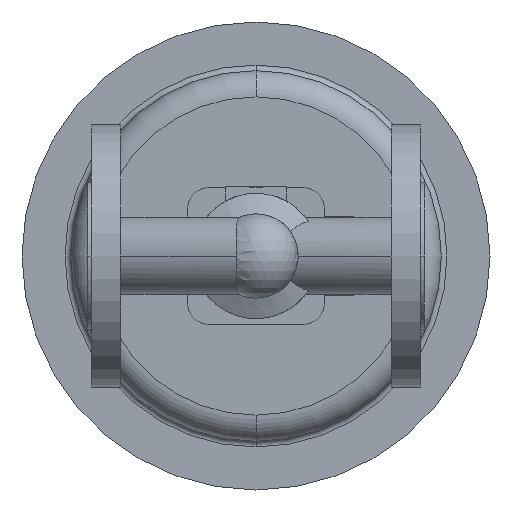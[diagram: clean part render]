
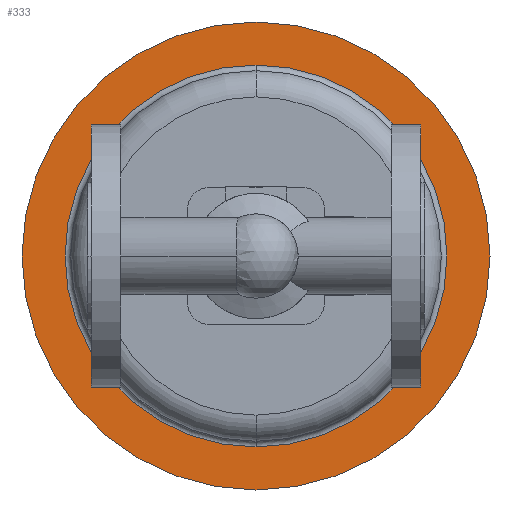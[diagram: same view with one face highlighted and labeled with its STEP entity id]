
A CAD part, front view. The second image highlights one B-rep face of the part: STEP entity #333.
In plain terms, the highlighted planar face has unit normal (0, -1, 0).
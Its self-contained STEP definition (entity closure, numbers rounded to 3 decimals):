
#333 = ADVANCED_FACE( '', ( #806, #807 ), #808, .T. );
#806 = FACE_OUTER_BOUND( '', #1288, .T. );
#807 = FACE_BOUND( '', #1289, .T. );
#808 = PLANE( '', #1290 );
#1288 = EDGE_LOOP( '', ( #2997, #2998 ) );
#1289 = EDGE_LOOP( '', ( #2999, #3000, #3001 ) );
#1290 = AXIS2_PLACEMENT_3D( '', #3002, #3003, #3004 );
#2997 = ORIENTED_EDGE( '', *, *, #3425, .F. );
#2998 = ORIENTED_EDGE( '', *, *, #3596, .F. );
#2999 = ORIENTED_EDGE( '', *, *, #3594, .T. );
#3000 = ORIENTED_EDGE( '', *, *, #3432, .T. );
#3001 = ORIENTED_EDGE( '', *, *, #3595, .T. );
#3002 = CARTESIAN_POINT( '', ( 203.5, 568.5, 0. ) );
#3003 = DIRECTION( '', ( 0., -1., 0. ) );
#3004 = DIRECTION( '', ( -1., 0., 0. ) );
#3425 = EDGE_CURVE( '', #4223, #4226, #4227, .T. );
#3432 = EDGE_CURVE( '', #4232, #4238, #4240, .T. );
#3594 = EDGE_CURVE( '', #4509, #4232, #4510, .T. );
#3595 = EDGE_CURVE( '', #4238, #4509, #4511, .T. );
#3596 = EDGE_CURVE( '', #4226, #4223, #4512, .T. );
#4223 = VERTEX_POINT( '', #5717 );
#4226 = VERTEX_POINT( '', #5721 );
#4227 = CIRCLE( '', #5722, 125. );
#4232 = VERTEX_POINT( '', #5728 );
#4238 = VERTEX_POINT( '', #5734 );
#4240 = CIRCLE( '', #5736, 102. );
#4509 = VERTEX_POINT( '', #6074 );
#4510 = CIRCLE( '', #6075, 102. );
#4511 = CIRCLE( '', #6076, 102. );
#4512 = CIRCLE( '', #6077, 125. );
#5717 = CARTESIAN_POINT( '', ( 215., 568.5, 0. ) );
#5721 = CARTESIAN_POINT( '', ( -35., 568.5, 0. ) );
#5722 = AXIS2_PLACEMENT_3D( '', #6776, #6777, #6778 );
#5728 = CARTESIAN_POINT( '', ( 90., 568.5, -102. ) );
#5734 = CARTESIAN_POINT( '', ( 90., 568.5, 102. ) );
#5736 = AXIS2_PLACEMENT_3D( '', #6795, #6796, #6797 );
#6074 = CARTESIAN_POINT( '', ( 192., 568.5, 0. ) );
#6075 = AXIS2_PLACEMENT_3D( '', #7143, #7144, #7145 );
#6076 = AXIS2_PLACEMENT_3D( '', #7146, #7147, #7148 );
#6077 = AXIS2_PLACEMENT_3D( '', #7149, #7150, #7151 );
#6776 = CARTESIAN_POINT( '', ( 90., 568.5, 0. ) );
#6777 = DIRECTION( '', ( 0., 1., 0. ) );
#6778 = DIRECTION( '', ( 1., 0., 0. ) );
#6795 = CARTESIAN_POINT( '', ( 90., 568.5, 0. ) );
#6796 = DIRECTION( '', ( 0., 1., 0. ) );
#6797 = DIRECTION( '', ( 1., 0., 0. ) );
#7143 = CARTESIAN_POINT( '', ( 90., 568.5, 0. ) );
#7144 = DIRECTION( '', ( 0., 1., 0. ) );
#7145 = DIRECTION( '', ( 1., 0., 0. ) );
#7146 = CARTESIAN_POINT( '', ( 90., 568.5, 0. ) );
#7147 = DIRECTION( '', ( 0., 1., 0. ) );
#7148 = DIRECTION( '', ( 1., 0., 0. ) );
#7149 = CARTESIAN_POINT( '', ( 90., 568.5, 0. ) );
#7150 = DIRECTION( '', ( 0., 1., 0. ) );
#7151 = DIRECTION( '', ( 1., 0., 0. ) );
